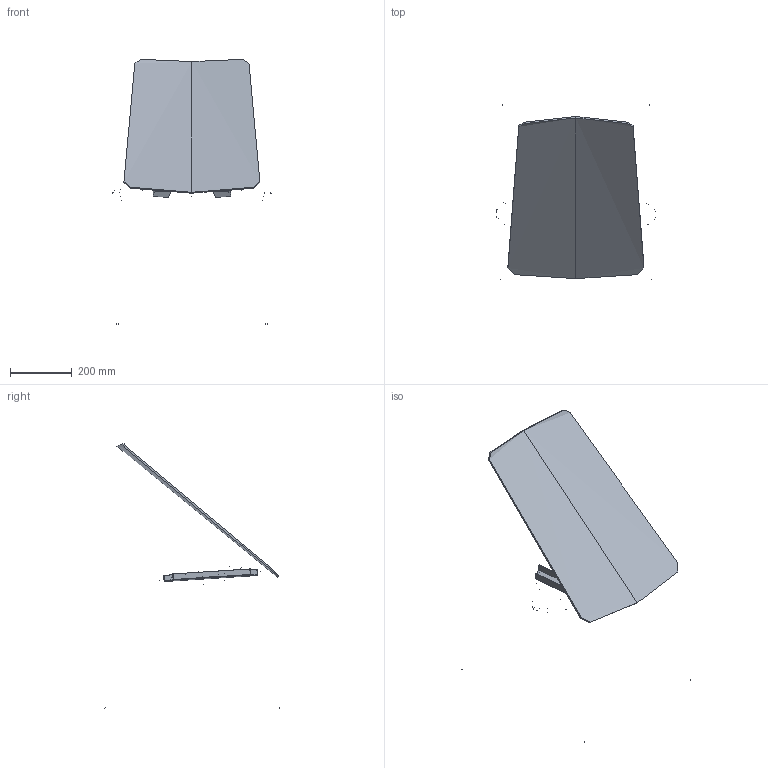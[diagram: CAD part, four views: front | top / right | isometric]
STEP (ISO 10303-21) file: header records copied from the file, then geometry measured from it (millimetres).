
FILE_DESCRIPTION(/* description */ (''),/* implementation_level */ '2;1');
FILE_NAME(/* name */ 'Evo 010,SR',/* time_stamp */ '2023-02-03T18:57:54+01:00',/* author */ (''),/* organization */ (''),/* preprocessor_version */ 'ST-DEVELOPER v16.5',/* originating_system */ 'Rhino 7.26',/* authorisation */ '');
FILE_SCHEMA (('CONFIG_CONTROL_DESIGN'));
Length unit declared in the file: millimetre
Products named in the file (1): Document
Bounding box: 515.8 x 569.47 x 862.02 mm (x, y, z)
Volume: 95868.5 mm3; surface area: 1061509.5 mm2
Topology: 2 solids, 18 shells, 78 faces, 175 edges, 111 vertices
Faces by surface type: bspline 36, plane 24, cylinder 18
Full cylindrical faces by diameter (mm): 6 x6, 22 x12
Entity records: 5513 total; most frequent: CARTESIAN_POINT 4306, ORIENTED_EDGE 314, EDGE_CURVE 171, VERTEX_POINT 107, B_SPLINE_CURVE_WITH_KNOTS 94, ADVANCED_FACE 78, FACE_OUTER_BOUND 78, EDGE_LOOP 78
